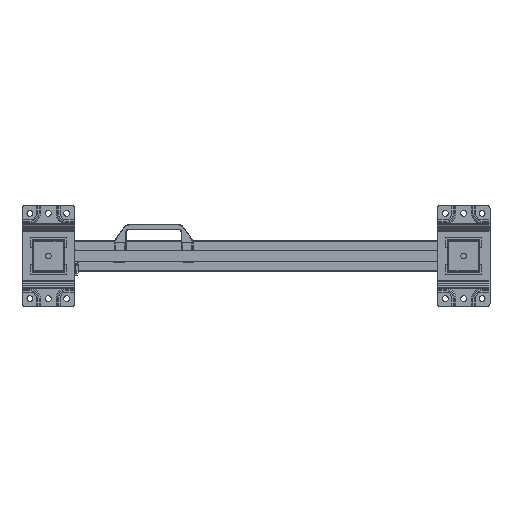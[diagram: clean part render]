
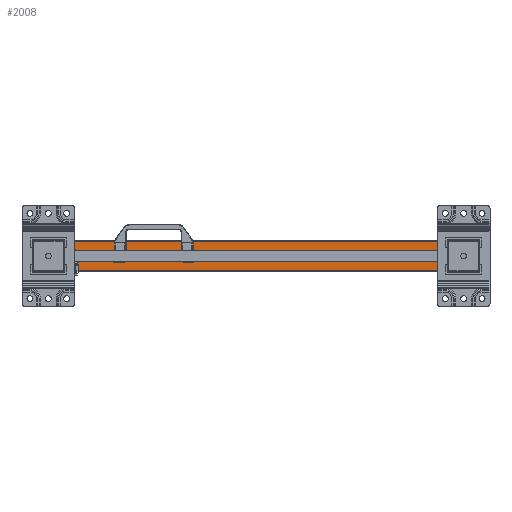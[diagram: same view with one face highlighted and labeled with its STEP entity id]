
A CAD part, front view. The second image highlights one B-rep face of the part: STEP entity #2008.
In plain terms, the highlighted planar face has unit normal (0, -1, 0).
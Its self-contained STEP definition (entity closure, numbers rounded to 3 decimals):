
#2008=ADVANCED_FACE('',(#5945),#5946,.T.);
#5945=FACE_OUTER_BOUND('',#12134,.T.);
#5946=PLANE('',#12135);
#12134=EDGE_LOOP('',(#19867,#19868,#19869,#19870));
#12135=AXIS2_PLACEMENT_3D('',#19871,#19872,#19873);
#19867=ORIENTED_EDGE('',*,*,#37314,.T.);
#19868=ORIENTED_EDGE('',*,*,#37315,.F.);
#19869=ORIENTED_EDGE('',*,*,#37316,.T.);
#19870=ORIENTED_EDGE('',*,*,#37304,.T.);
#19871=CARTESIAN_POINT('',(0.0,2039.0,30.));
#19872=DIRECTION('',(0.,-1.0,0.));
#19873=DIRECTION('',(-1.0,0.,0.0));
#37304=EDGE_CURVE('',#44474,#44472,#44475,.T.);
#37314=EDGE_CURVE('',#44472,#44487,#44488,.T.);
#37315=EDGE_CURVE('',#44489,#44487,#44490,.T.);
#37316=EDGE_CURVE('',#44489,#44474,#44491,.T.);
#44472=VERTEX_POINT('',#54990);
#44474=VERTEX_POINT('',#54993);
#44475=LINE('',#54994,#54995);
#44487=VERTEX_POINT('',#55013);
#44488=LINE('',#55014,#55015);
#44489=VERTEX_POINT('',#55016);
#44490=LINE('',#55017,#55018);
#44491=LINE('',#55019,#55020);
#54990=CARTESIAN_POINT('',(730.0,2039.0,-30.));
#54993=CARTESIAN_POINT('',(0.,2039.0,-30.));
#54994=CARTESIAN_POINT('',(0.,2039.0,-30.));
#54995=VECTOR('',#70836,10.0);
#55013=CARTESIAN_POINT('',(730.0,2039.0,30.));
#55014=CARTESIAN_POINT('',(730.0,2039.0,15.));
#55015=VECTOR('',#70843,1.0);
#55016=CARTESIAN_POINT('',(0.0,2039.0,30.));
#55017=CARTESIAN_POINT('',(0.0,2039.0,30.));
#55018=VECTOR('',#70844,10.0);
#55019=CARTESIAN_POINT('',(0.0,2039.0,30.));
#55020=VECTOR('',#70845,10.0);
#70836=DIRECTION('',(1.0,0.,0.));
#70843=DIRECTION('',(-0.0,0.,1.0));
#70844=DIRECTION('',(1.0,0.,0.));
#70845=DIRECTION('',(0.,0.,-1.0));
